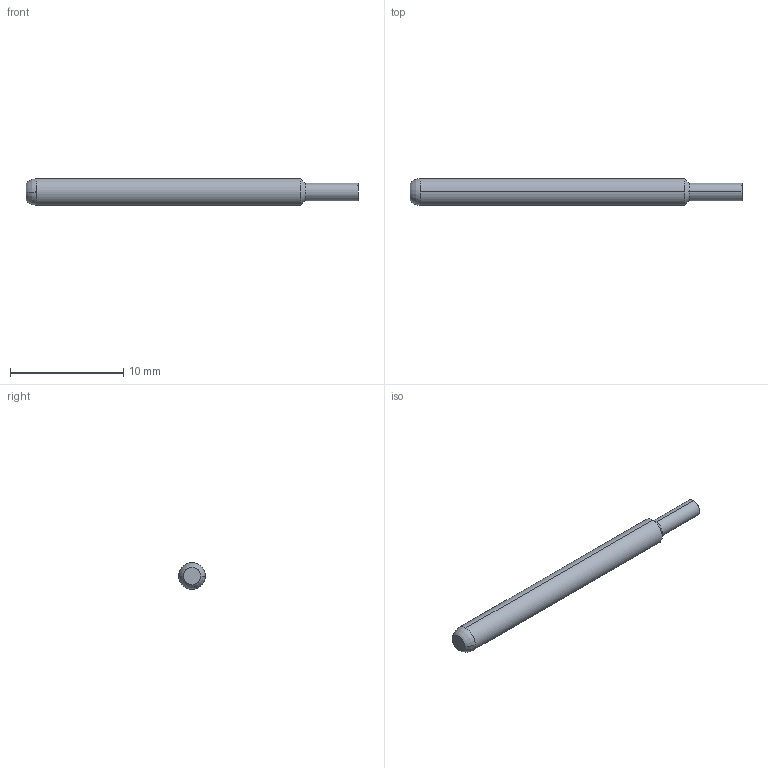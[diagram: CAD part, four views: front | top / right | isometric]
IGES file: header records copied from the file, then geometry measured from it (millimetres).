
Start section: SolidWorks IGES file using analytic representation for surfaces
Global section: file name: Z:\probe solid model mockups\Solidworks models\IGES Files\EPA-4 IGES files\EPA-4C RECD.IGS; native system: SolidWorks 2006 by SolidWorks Corporation; preprocessor: SolidWorks 2006 by SolidWorks Corporation; author: tsakatani; date: 080103.104206; units: inch
Bounding box: 29.29 x 2.36 x 2.36 mm (x, y, z)
Surface area: 209.3 mm2 (no closed solid volume)
Topology: 0 solids, 0 shells, 10 faces, 68 edges, 68 vertices
Faces by surface type: revolution 8, bspline 2
